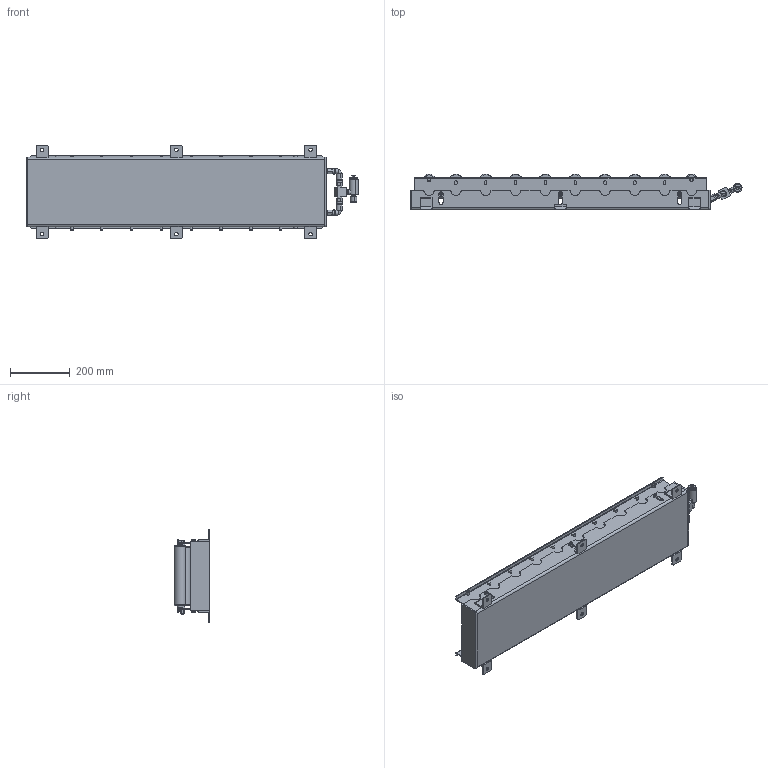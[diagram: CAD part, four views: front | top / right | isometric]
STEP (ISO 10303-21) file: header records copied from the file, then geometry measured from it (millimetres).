
FILE_DESCRIPTION (( 'STEP AP214' ), '1' );
FILE_NAME ('ALR-PR-571008D_H.STEP', '2013-03-20T03:00:18', ( '' ), ( '' ), '', '', '' );
FILE_SCHEMA (( 'AUTOMOTIVE_DESIGN' ));
Length unit declared in the file: millimetre
Products named in the file (16): frame1; frame2; ALR-PR-571008D_H; 配管; SUTE10A_50; APMTY_T3_T3; KQ2L12_03S_2_03; KQ2H12_03S_2_03; 管継手; ASV510F_03_12S; ブラケット1; ブラケット2; 57roller; 38roller; t_box; CB10_12
Assembly tree (43 placements, depth 3):
  ALR-PR-571008D_H
    frame2
    frame1
    CB10_12  x6
    t_box  x8
    38roller  x2
    57roller  x8
    ブラケット2  x2
    ブラケット1  x4
    配管
      ASV510F_03_12S
      管継手
      KQ2H12_03S_2_03  x2
      KQ2L12_03S_2_03  x2
      APMTY_T3_T3  x2
      SUTE10A_50  x2
Bounding box: 1112.98 x 120.05 x 313 mm (x, y, z)
Volume: 8308397.3 mm3; surface area: 2093866 mm2
Topology: 48 solids, 48 shells, 1500 faces, 3529 edges, 2214 vertices
Faces by surface type: plane 677, cylinder 621, cone 118, torus 48, sphere 32, bspline 4
Entity records: 21418 total; most frequent: CARTESIAN_POINT 4246, DIRECTION 3554, ORIENTED_EDGE 3238, EDGE_CURVE 1619, AXIS2_PLACEMENT_3D 1319, VERTEX_POINT 1051, LINE 916, VECTOR 916
